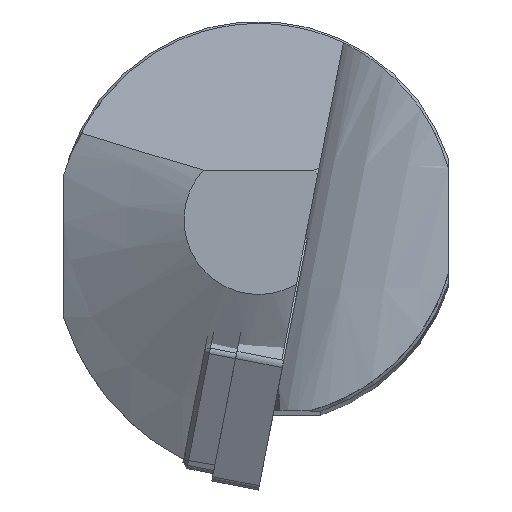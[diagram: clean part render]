
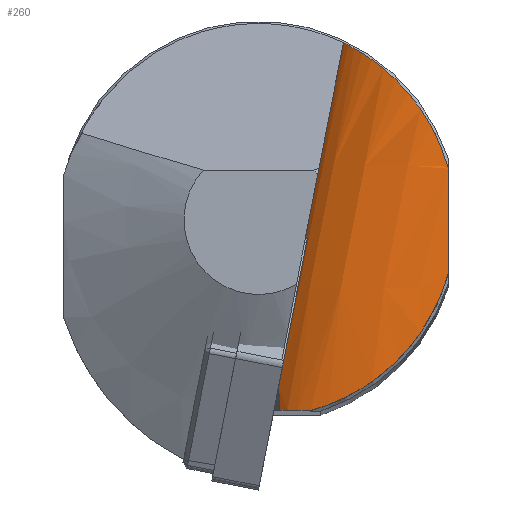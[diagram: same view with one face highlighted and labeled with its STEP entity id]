
A CAD part, top view. The second image highlights one B-rep face of the part: STEP entity #260.
In plain terms, the highlighted free-form (B-spline) face has degree [3, 3] with [4, 16] control points.
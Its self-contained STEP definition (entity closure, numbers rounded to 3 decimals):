
#102=B_SPLINE_SURFACE_WITH_KNOTS('',3,3,((#1693,#1694,#1695,#1696,#1697,
#1698,#1699,#1700,#1701,#1702,#1703,#1704,#1705,#1706,#1707,#1708),(#1709,
#1710,#1711,#1712,#1713,#1714,#1715,#1716,#1717,#1718,#1719,#1720,#1721,
#1722,#1723,#1724),(#1725,#1726,#1727,#1728,#1729,#1730,#1731,#1732,#1733,
#1734,#1735,#1736,#1737,#1738,#1739,#1740),(#1741,#1742,#1743,#1744,#1745,
#1746,#1747,#1748,#1749,#1750,#1751,#1752,#1753,#1754,#1755,#1756)),
 .UNSPECIFIED.,.F.,.F.,.F.,(4,4),(4,1,2,1,1,2,1,1,2,1,4),(0.,1.),(0.,0.14,
0.25,0.28,0.42,0.5,0.56,0.707,0.75,0.853,1.),
 .UNSPECIFIED.);
#108=B_SPLINE_CURVE_WITH_KNOTS('',3,(#1652,#1653,#1654,#1655),
 .UNSPECIFIED.,.F.,.F.,(4,4),(0.,1.),.UNSPECIFIED.);
#109=B_SPLINE_CURVE_WITH_KNOTS('',3,(#1658,#1659,#1660,#1661,#1662,#1663,
#1664,#1665),.UNSPECIFIED.,.F.,.F.,(4,1,1,2,4),(0.,0.17,0.731,
0.851,1.),.UNSPECIFIED.);
#110=B_SPLINE_CURVE_WITH_KNOTS('',3,(#1667,#1668,#1669,#1670,#1671,#1672,
#1673,#1674),.UNSPECIFIED.,.F.,.F.,(4,2,2,4),(0.,0.25,0.5,1.),
 .UNSPECIFIED.);
#111=B_SPLINE_CURVE_WITH_KNOTS('',3,(#1676,#1677,#1678,#1679),
 .UNSPECIFIED.,.F.,.F.,(4,4),(0.,1.),.UNSPECIFIED.);
#112=B_SPLINE_CURVE_WITH_KNOTS('',3,(#1681,#1682,#1683,#1684,#1685,#1686,
#1687,#1688,#1689,#1690),.UNSPECIFIED.,.F.,.F.,(4,2,2,2,4),(0.,0.25,0.5,
0.75,1.),.UNSPECIFIED.);
#260=ADVANCED_FACE('',(#344),#102,.T.);
#344=FACE_OUTER_BOUND('',#406,.T.);
#406=EDGE_LOOP('',(#526,#527,#528,#529,#530,#531));
#526=ORIENTED_EDGE('',*,*,#898,.T.);
#527=ORIENTED_EDGE('',*,*,#899,.F.);
#528=ORIENTED_EDGE('',*,*,#900,.T.);
#529=ORIENTED_EDGE('',*,*,#901,.F.);
#530=ORIENTED_EDGE('',*,*,#902,.T.);
#531=ORIENTED_EDGE('',*,*,#903,.T.);
#790=VERTEX_POINT('',#1656);
#791=VERTEX_POINT('',#1657);
#792=VERTEX_POINT('',#1666);
#793=VERTEX_POINT('',#1675);
#794=VERTEX_POINT('',#1680);
#795=VERTEX_POINT('',#1691);
#898=EDGE_CURVE('',#790,#791,#108,.T.);
#899=EDGE_CURVE('',#792,#791,#109,.T.);
#900=EDGE_CURVE('',#792,#793,#110,.T.);
#901=EDGE_CURVE('',#794,#793,#111,.T.);
#902=EDGE_CURVE('',#794,#795,#112,.T.);
#903=EDGE_CURVE('',#795,#790,#1030,.T.);
#1030=LINE('',#1692,#1101);
#1101=VECTOR('',#1346,1.);
#1346=DIRECTION('',(-0.191,-0.982,0.));
#1652=CARTESIAN_POINT('',(2.268,-14.273,-23.404));
#1653=CARTESIAN_POINT('',(1.968,-15.817,-25.272));
#1654=CARTESIAN_POINT('',(1.92,-17.392,-27.119));
#1655=CARTESIAN_POINT('',(2.133,-19.,-28.945));
#1656=CARTESIAN_POINT('',(2.268,-14.273,-23.404));
#1657=CARTESIAN_POINT('',(2.133,-19.,-28.945));
#1658=CARTESIAN_POINT('',(5.205,-19.,-35.208));
#1659=CARTESIAN_POINT('',(4.967,-19.,-34.882));
#1660=CARTESIAN_POINT('',(3.989,-19.,-33.452));
#1661=CARTESIAN_POINT('',(3.076,-19.,-31.66));
#1662=CARTESIAN_POINT('',(2.532,-19.,-30.185));
#1663=CARTESIAN_POINT('',(2.33,-19.,-29.598));
#1664=CARTESIAN_POINT('',(2.227,-19.,-29.272));
#1665=CARTESIAN_POINT('',(2.133,-19.,-28.945));
#1666=CARTESIAN_POINT('',(5.205,-19.,-35.208));
#1667=CARTESIAN_POINT('',(5.205,-19.,-35.208));
#1668=CARTESIAN_POINT('',(6.344,-18.688,-36.686));
#1669=CARTESIAN_POINT('',(7.66,-18.218,-37.928));
#1670=CARTESIAN_POINT('',(10.469,-16.763,-39.973));
#1671=CARTESIAN_POINT('',(11.91,-15.796,-40.733));
#1672=CARTESIAN_POINT('',(15.925,-12.147,-42.387));
#1673=CARTESIAN_POINT('',(18.,-8.856,-42.685));
#1674=CARTESIAN_POINT('',(19.,-5.205,-42.76));
#1675=CARTESIAN_POINT('',(19.,-5.205,-42.76));
#1676=CARTESIAN_POINT('',(19.,5.205,-42.117));
#1677=CARTESIAN_POINT('',(19.,1.738,-42.371));
#1678=CARTESIAN_POINT('',(19.,-1.733,-42.585));
#1679=CARTESIAN_POINT('',(19.,-5.205,-42.76));
#1680=CARTESIAN_POINT('',(19.,5.205,-42.117));
#1681=CARTESIAN_POINT('',(19.,5.205,-42.117));
#1682=CARTESIAN_POINT('',(18.404,7.381,-41.733));
#1683=CARTESIAN_POINT('',(17.42,9.431,-41.12));
#1684=CARTESIAN_POINT('',(15.076,12.85,-39.145));
#1685=CARTESIAN_POINT('',(13.726,14.217,-37.779));
#1686=CARTESIAN_POINT('',(11.31,16.206,-34.352));
#1687=CARTESIAN_POINT('',(10.276,16.827,-32.339));
#1688=CARTESIAN_POINT('',(8.873,17.607,-28.033));
#1689=CARTESIAN_POINT('',(8.497,17.773,-25.725));
#1690=CARTESIAN_POINT('',(8.497,17.773,-23.404));
#1691=CARTESIAN_POINT('',(8.497,17.773,-23.404));
#1692=CARTESIAN_POINT('',(12.602,38.89,-23.404));
#1693=CARTESIAN_POINT('',(12.602,38.89,-23.404));
#1694=CARTESIAN_POINT('',(12.602,38.89,-24.585));
#1695=CARTESIAN_POINT('',(12.793,38.89,-26.763));
#1696=CARTESIAN_POINT('',(13.364,38.89,-28.965));
#1697=CARTESIAN_POINT('',(13.784,38.89,-30.185));
#1698=CARTESIAN_POINT('',(14.329,38.89,-31.66));
#1699=CARTESIAN_POINT('',(15.403,38.89,-33.768));
#1700=CARTESIAN_POINT('',(16.629,38.89,-35.464));
#1701=CARTESIAN_POINT('',(17.471,38.89,-36.495));
#1702=CARTESIAN_POINT('',(18.779,38.89,-37.961));
#1703=CARTESIAN_POINT('',(20.602,38.89,-39.482));
#1704=CARTESIAN_POINT('',(22.089,38.89,-40.423));
#1705=CARTESIAN_POINT('',(23.253,38.89,-41.11));
#1706=CARTESIAN_POINT('',(25.292,38.89,-42.12));
#1707=CARTESIAN_POINT('',(27.39,38.89,-42.753));
#1708=CARTESIAN_POINT('',(28.602,38.89,-43.));
#1709=CARTESIAN_POINT('',(7.44,12.334,-23.404));
#1710=CARTESIAN_POINT('',(7.44,12.334,-24.585));
#1711=CARTESIAN_POINT('',(7.631,12.334,-26.763));
#1712=CARTESIAN_POINT('',(8.202,12.334,-28.965));
#1713=CARTESIAN_POINT('',(8.622,12.334,-30.185));
#1714=CARTESIAN_POINT('',(9.167,12.334,-31.66));
#1715=CARTESIAN_POINT('',(10.241,12.334,-33.768));
#1716=CARTESIAN_POINT('',(11.467,12.334,-35.464));
#1717=CARTESIAN_POINT('',(12.309,12.334,-36.495));
#1718=CARTESIAN_POINT('',(13.617,12.334,-37.961));
#1719=CARTESIAN_POINT('',(15.439,12.334,-39.482));
#1720=CARTESIAN_POINT('',(16.927,12.334,-40.423));
#1721=CARTESIAN_POINT('',(18.091,12.334,-41.11));
#1722=CARTESIAN_POINT('',(20.13,12.334,-42.12));
#1723=CARTESIAN_POINT('',(22.228,12.334,-42.753));
#1724=CARTESIAN_POINT('',(23.44,12.334,-43.));
#1725=CARTESIAN_POINT('',(2.278,-14.223,-23.404));
#1726=CARTESIAN_POINT('',(2.278,-14.223,-24.585));
#1727=CARTESIAN_POINT('',(2.469,-14.223,-26.763));
#1728=CARTESIAN_POINT('',(3.04,-14.223,-28.965));
#1729=CARTESIAN_POINT('',(3.46,-14.223,-30.185));
#1730=CARTESIAN_POINT('',(4.004,-14.223,-31.66));
#1731=CARTESIAN_POINT('',(5.079,-14.223,-33.768));
#1732=CARTESIAN_POINT('',(6.305,-14.223,-35.464));
#1733=CARTESIAN_POINT('',(7.147,-14.223,-36.495));
#1734=CARTESIAN_POINT('',(8.455,-14.223,-37.961));
#1735=CARTESIAN_POINT('',(10.277,-14.223,-39.482));
#1736=CARTESIAN_POINT('',(11.765,-14.223,-40.423));
#1737=CARTESIAN_POINT('',(12.929,-14.223,-41.11));
#1738=CARTESIAN_POINT('',(14.968,-14.223,-42.12));
#1739=CARTESIAN_POINT('',(17.066,-14.223,-42.753));
#1740=CARTESIAN_POINT('',(18.278,-14.223,-43.));
#1741=CARTESIAN_POINT('',(-2.884,-40.779,-23.404));
#1742=CARTESIAN_POINT('',(-2.884,-40.779,-24.585));
#1743=CARTESIAN_POINT('',(-2.693,-40.779,-26.763));
#1744=CARTESIAN_POINT('',(-2.122,-40.779,-28.965));
#1745=CARTESIAN_POINT('',(-1.702,-40.779,-30.185));
#1746=CARTESIAN_POINT('',(-1.158,-40.779,-31.66));
#1747=CARTESIAN_POINT('',(-0.083,-40.779,-33.768));
#1748=CARTESIAN_POINT('',(1.143,-40.779,-35.464));
#1749=CARTESIAN_POINT('',(1.985,-40.779,-36.495));
#1750=CARTESIAN_POINT('',(3.293,-40.779,-37.961));
#1751=CARTESIAN_POINT('',(5.115,-40.779,-39.482));
#1752=CARTESIAN_POINT('',(6.603,-40.779,-40.423));
#1753=CARTESIAN_POINT('',(7.767,-40.779,-41.11));
#1754=CARTESIAN_POINT('',(9.806,-40.779,-42.12));
#1755=CARTESIAN_POINT('',(11.904,-40.779,-42.753));
#1756=CARTESIAN_POINT('',(13.116,-40.779,-43.));
